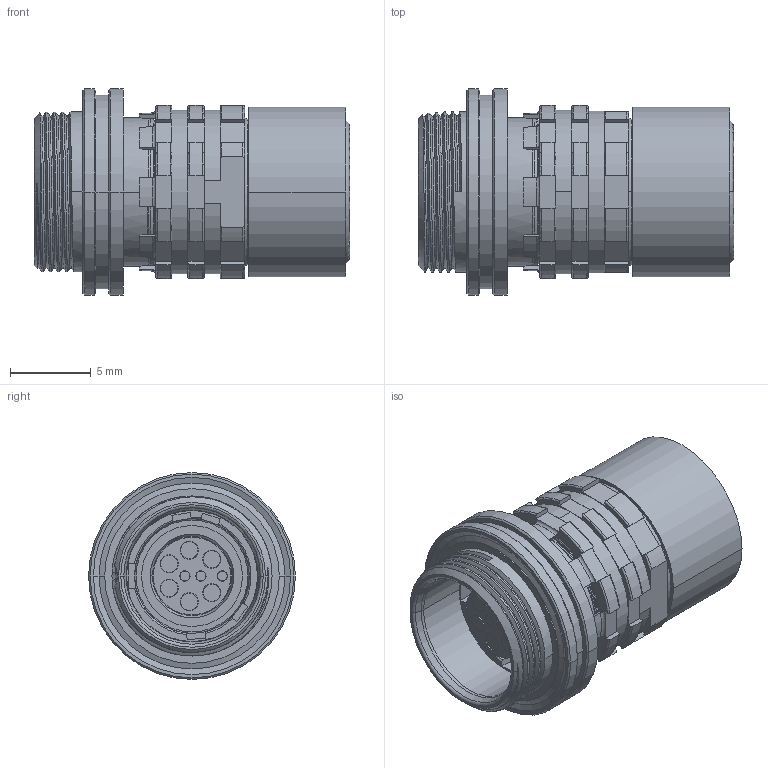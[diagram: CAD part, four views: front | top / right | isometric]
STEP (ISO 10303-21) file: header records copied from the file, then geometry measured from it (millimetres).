
FILE_DESCRIPTION((''),'2;1');
FILE_NAME('KC0W_M-P09WMM0-0000_E_SW0001','2020-12-23T11:33:48',('FHeitzinger'),(''),'CREO PARAMETRIC BY PTC INC, 2018300','CREO PARAMETRIC BY PTC INC, 2018300','');
FILE_SCHEMA(('AP242_MANAGED_MODEL_BASED_3D_ENGINEERING_MIM_LF { 1 0 10303 442 1 1 4 }'));
Length unit declared in the file: millimetre
Products named in the file (1): KC0W_M-P09WMM0-0000_E_SW0001
Bounding box: 19.5 x 12.8 x 12.8 mm (x, y, z)
Volume: 993.9 mm3; surface area: 2869.5 mm2
Topology: 2 solids, 2 shells, 831 faces, 2426 edges, 1604 vertices
Faces by surface type: cylinder 281, plane 266, cone 130, torus 125, bspline 28, sphere 1
Entity records: 47818 total; most frequent: CARTESIAN_POINT 19953, ORIENTED_EDGE 4816, DIRECTION 4530, EDGE_CURVE 2408, AXIS2_PLACEMENT_3D 1804, VERTEX_POINT 1604, CIRCLE 1001, VECTOR 922
